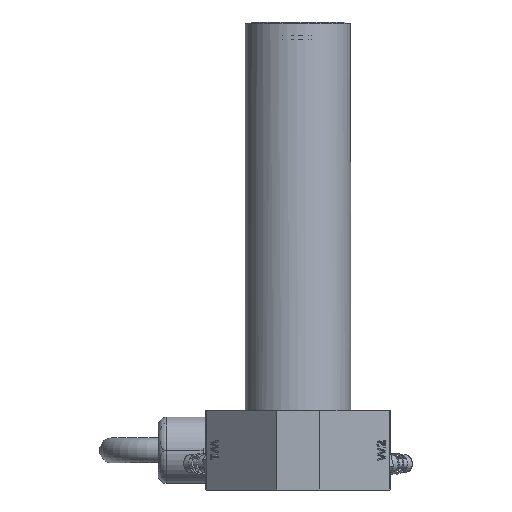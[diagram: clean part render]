
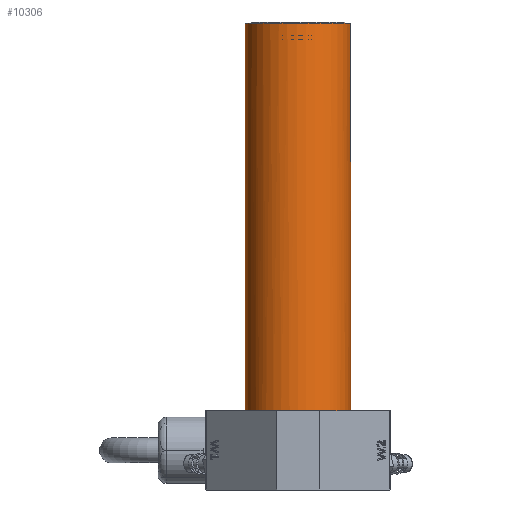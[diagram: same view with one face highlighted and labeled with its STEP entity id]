
A CAD part, left-side view. The second image highlights one B-rep face of the part: STEP entity #10306.
In plain terms, the highlighted cylindrical face has radius 12.7 mm (diameter 25.4 mm), a full revolution.
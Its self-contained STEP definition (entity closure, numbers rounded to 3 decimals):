
#1593=FACE_OUTER_BOUND('',#2203,.T.);
#2203=EDGE_LOOP('',(#8118,#8119,#8120,#8121,#8122,#8123,#8124,#8125,#8126));
#2824=LINE('',#16237,#3659);
#3659=VECTOR('',#12860,12.7);
#4529=CIRCLE('',#11194,12.7);
#4530=CIRCLE('',#11196,12.7);
#4532=CIRCLE('',#11200,12.7);
#4533=CIRCLE('',#11201,12.7);
#4534=CIRCLE('',#11202,12.7);
#4535=CIRCLE('',#11203,12.7);
#4536=CIRCLE('',#11204,12.7);
#5039=VERTEX_POINT('',#16220);
#5040=VERTEX_POINT('',#16221);
#5041=VERTEX_POINT('',#16225);
#5042=VERTEX_POINT('',#16226);
#5044=VERTEX_POINT('',#16234);
#5045=VERTEX_POINT('',#16236);
#5046=VERTEX_POINT('',#16239);
#6196=EDGE_CURVE('',#5040,#5039,#4529,.T.);
#6198=EDGE_CURVE('',#5042,#5041,#4530,.T.);
#6201=EDGE_CURVE('',#5044,#5044,#4532,.T.);
#6202=EDGE_CURVE('',#5044,#5045,#2824,.T.);
#6203=EDGE_CURVE('',#5041,#5045,#4533,.T.);
#6204=EDGE_CURVE('',#5046,#5042,#4534,.T.);
#6205=EDGE_CURVE('',#5039,#5046,#4535,.T.);
#6206=EDGE_CURVE('',#5045,#5040,#4536,.T.);
#8118=ORIENTED_EDGE('',*,*,#6201,.T.);
#8119=ORIENTED_EDGE('',*,*,#6202,.T.);
#8120=ORIENTED_EDGE('',*,*,#6203,.F.);
#8121=ORIENTED_EDGE('',*,*,#6198,.F.);
#8122=ORIENTED_EDGE('',*,*,#6204,.F.);
#8123=ORIENTED_EDGE('',*,*,#6205,.F.);
#8124=ORIENTED_EDGE('',*,*,#6196,.F.);
#8125=ORIENTED_EDGE('',*,*,#6206,.F.);
#8126=ORIENTED_EDGE('',*,*,#6202,.F.);
#10047=CYLINDRICAL_SURFACE('',#11199,12.7);
#10306=ADVANCED_FACE('',(#1593),#10047,.T.);
#11194=AXIS2_PLACEMENT_3D('',#16223,#12844,#12845);
#11196=AXIS2_PLACEMENT_3D('',#16228,#12849,#12850);
#11199=AXIS2_PLACEMENT_3D('',#16233,#12856,#12857);
#11200=AXIS2_PLACEMENT_3D('',#16235,#12858,#12859);
#11201=AXIS2_PLACEMENT_3D('',#16238,#12861,#12862);
#11202=AXIS2_PLACEMENT_3D('',#16240,#12863,#12864);
#11203=AXIS2_PLACEMENT_3D('',#16241,#12865,#12866);
#11204=AXIS2_PLACEMENT_3D('',#16242,#12867,#12868);
#12844=DIRECTION('center_axis',(0.,0.,
-1.));
#12845=DIRECTION('ref_axis',(-0.93,0.367,0.));
#12849=DIRECTION('center_axis',(0.,0.,
-1.));
#12850=DIRECTION('ref_axis',(-0.93,0.367,0.));
#12856=DIRECTION('center_axis',(0.,0.,
1.));
#12857=DIRECTION('ref_axis',(-0.93,0.367,0.));
#12858=DIRECTION('center_axis',(0.,0.,
-1.));
#12859=DIRECTION('ref_axis',(-0.93,0.367,0.));
#12860=DIRECTION('',(0.,0.,-1.));
#12861=DIRECTION('center_axis',(0.,0.,-1.));
#12862=DIRECTION('ref_axis',(-0.93,0.367,0.));
#12863=DIRECTION('center_axis',(0.,0.,-1.));
#12864=DIRECTION('ref_axis',(-0.93,0.367,0.));
#12865=DIRECTION('center_axis',(0.,0.,-1.));
#12866=DIRECTION('ref_axis',(-0.93,0.367,0.));
#12867=DIRECTION('center_axis',(0.,0.,-1.));
#12868=DIRECTION('ref_axis',(-0.93,0.367,0.));
#16220=CARTESIAN_POINT('',(-10.16,-7.62,19.05));
#16221=CARTESIAN_POINT('',(-7.62,-10.16,19.05));
#16223=CARTESIAN_POINT('Origin',(0.,0.,
19.05));
#16225=CARTESIAN_POINT('',(-7.62,10.16,19.05));
#16226=CARTESIAN_POINT('',(-10.16,7.62,19.05));
#16228=CARTESIAN_POINT('Origin',(0.,0.,
19.05));
#16233=CARTESIAN_POINT('Origin',(0.,0.,
19.05));
#16234=CARTESIAN_POINT('',(11.812,-4.665,112.268));
#16235=CARTESIAN_POINT('Origin',(0.,0.,
112.268));
#16236=CARTESIAN_POINT('',(11.812,-4.665,19.05));
#16237=CARTESIAN_POINT('',(11.812,-4.665,19.05));
#16238=CARTESIAN_POINT('Origin',(0.,0.,
19.05));
#16239=CARTESIAN_POINT('',(-12.7,0.,19.05));
#16240=CARTESIAN_POINT('Origin',(0.,0.,
19.05));
#16241=CARTESIAN_POINT('Origin',(0.,0.,
19.05));
#16242=CARTESIAN_POINT('Origin',(0.,0.,
19.05));
